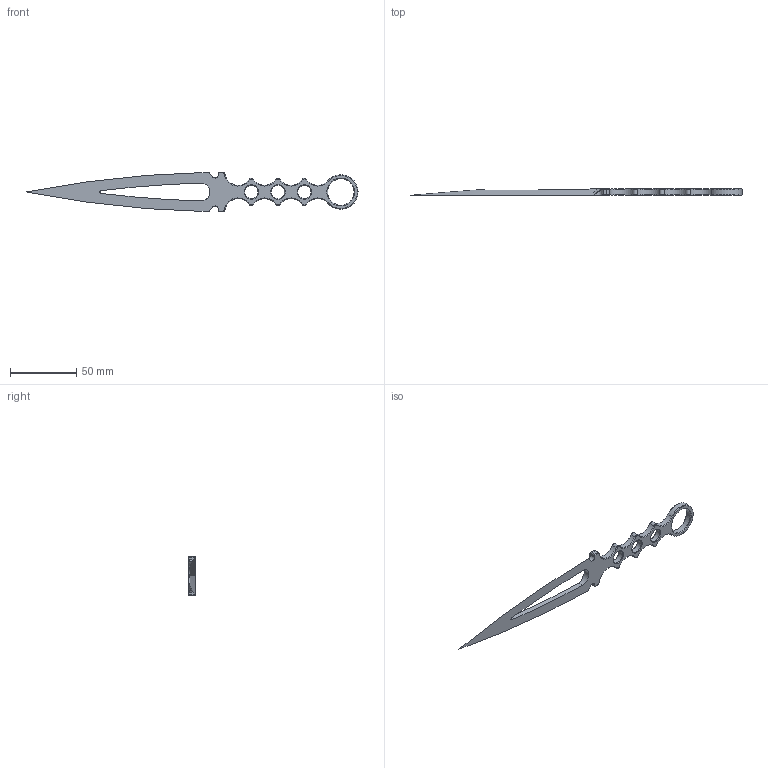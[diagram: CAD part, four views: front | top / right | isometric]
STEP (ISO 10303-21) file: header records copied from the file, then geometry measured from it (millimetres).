
FILE_DESCRIPTION(/* description */ (''),/* implementation_level */ '2;1');
FILE_NAME(/* name */ 'Untitled.step',/* time_stamp */ '2024-09-03T10:07:12-04:00',/* author */ (''),/* organization */ (''),/* preprocessor_version */ 'ST-DEVELOPER v20',/* originating_system */ 'Autodesk Translation Framework v13.14.0.145',/* authorisation */ '');
FILE_SCHEMA (('AUTOMOTIVE_DESIGN { 1 0 10303 214 3 1 1 }'));
Length unit declared in the file: millimetre
Products named in the file (1): (Unsaved)
Bounding box: 250.45 x 5 x 29.97 mm (x, y, z)
Volume: 9883.6 mm3; surface area: 9248 mm2
Topology: 1 solids, 1 shells, 87 faces, 224 edges, 137 vertices
Faces by surface type: cone 44, cylinder 29, plane 12, bspline 2
Full cylindrical faces by diameter (mm): 10 x3, 20 x1
Entity records: 2863 total; most frequent: CARTESIAN_POINT 647, DIRECTION 492, ORIENTED_EDGE 446, EDGE_CURVE 223, AXIS2_PLACEMENT_3D 199, VERTEX_POINT 137, CIRCLE 109, EDGE_LOOP 96
